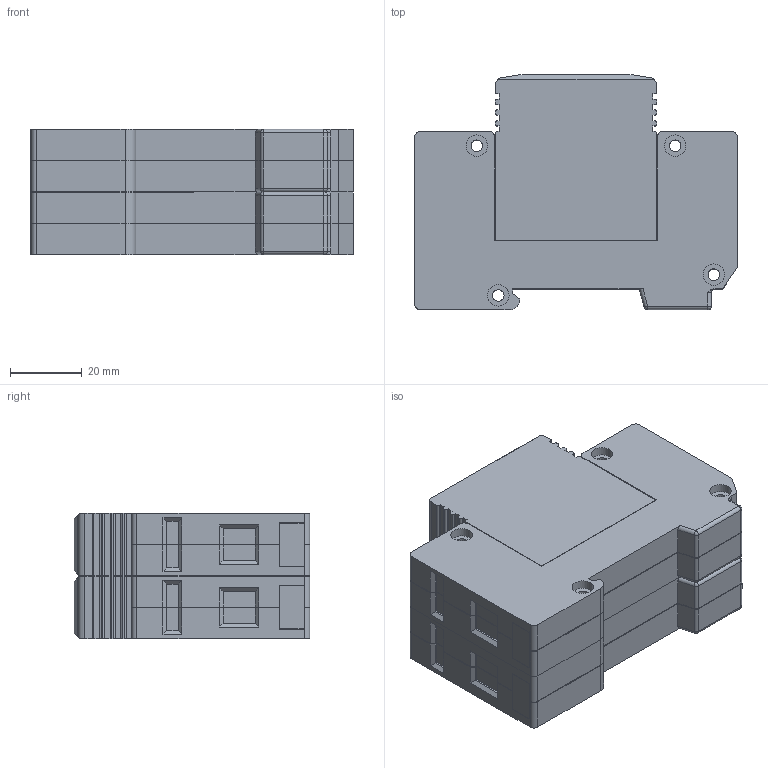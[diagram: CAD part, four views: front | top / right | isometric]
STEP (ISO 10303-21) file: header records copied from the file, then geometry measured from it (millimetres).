
FILE_DESCRIPTION(/* description */ (''),/* implementation_level */ '2;1');
FILE_NAME(/* name */ 'K:\PROJEKTY ROZPRACOVANÉ\MODELY DO KATALOGU\HSA, HLSA 24520, 10007\3D - STEP\HLSA 2+0 M.stp',/* time_stamp */ '2020-03-17T07:40:15+01:00',/* author */ ('M Koliska'),/* organization */ (''),/* preprocessor_version */ 'ST-DEVELOPER v18',/* originating_system */ 'Autodesk Inventor 2020',/* authorisation */ '');
FILE_SCHEMA (('AUTOMOTIVE_DESIGN { 1 0 10303 214 3 1 1 }'));
Length unit declared in the file: millimetre
Products named in the file (4): HLSA 2+0 M; HLSA M; HLSA M_1; DIN 7985 (H) - M5x6-H
Assembly tree (5 placements, depth 3):
  HLSA 2+0 M
    HLSA M  x2
      HLSA M_1
      DIN 7985 (H) - M5x6-H
Bounding box: 90 x 65.8 x 35 mm (x, y, z)
Volume: 167508.5 mm3; surface area: 41371.4 mm2
Topology: 6 solids, 6 shells, 754 faces, 2126 edges, 1408 vertices
Faces by surface type: plane 524, cylinder 142, cone 68, sphere 12, torus 8
Full cylindrical faces by diameter (mm): 3.2 x8, 4.6 x4, 5 x4, 6 x16
Entity records: 11086 total; most frequent: CARTESIAN_POINT 1994, ORIENTED_EDGE 1912, DIRECTION 1840, EDGE_CURVE 956, LINE 724, VECTOR 724, VERTEX_POINT 632, AXIS2_PLACEMENT_3D 558
